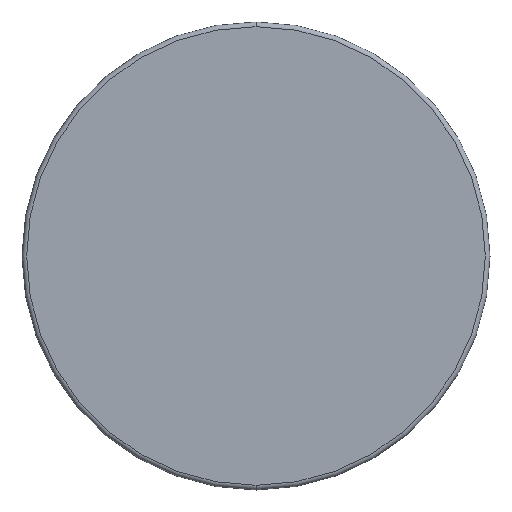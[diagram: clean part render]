
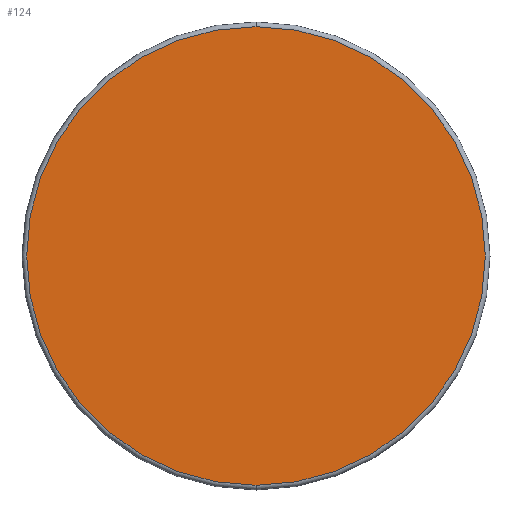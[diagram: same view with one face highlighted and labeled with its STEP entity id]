
A CAD part, front view. The second image highlights one B-rep face of the part: STEP entity #124.
In plain terms, the highlighted planar face has unit normal (0, -1, 0).
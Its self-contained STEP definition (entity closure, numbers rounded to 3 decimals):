
#23 = AXIS2_PLACEMENT_3D ( 'NONE', #998, #148, #602 ) ;
#77 = ORIENTED_EDGE ( 'NONE', *, *, #651, .T. ) ;
#123 = EDGE_LOOP ( 'NONE', ( #77, #955 ) ) ;
#124 = ADVANCED_FACE ( 'NONE', ( #421 ), #743, .F. ) ;
#145 = CIRCLE ( 'NONE', #727, 49. ) ;
#148 = DIRECTION ( 'NONE',  ( 0., 1., 0. ) ) ;
#171 = CARTESIAN_POINT ( 'NONE',  ( 0., 0., 0. ) ) ;
#211 = CARTESIAN_POINT ( 'NONE',  ( 0., 0., 49. ) ) ;
#253 = DIRECTION ( 'NONE',  ( 0., -1., 0. ) ) ;
#269 = VERTEX_POINT ( 'NONE', #888 ) ;
#278 = DIRECTION ( 'NONE',  ( 0., -1., 0. ) ) ;
#296 = CARTESIAN_POINT ( 'NONE',  ( 0., 0., 0. ) ) ;
#421 = FACE_OUTER_BOUND ( 'NONE', #123, .T. ) ;
#484 = DIRECTION ( 'NONE',  ( 0., 0., -1. ) ) ;
#595 = DIRECTION ( 'NONE',  ( 0., 0., -1. ) ) ;
#602 = DIRECTION ( 'NONE',  ( 0., 0., 1. ) ) ;
#603 = EDGE_CURVE ( 'NONE', #895, #269, #798, .T. ) ;
#651 = EDGE_CURVE ( 'NONE', #269, #895, #145, .T. ) ;
#727 = AXIS2_PLACEMENT_3D ( 'NONE', #171, #278, #595 ) ;
#743 = PLANE ( 'NONE',  #23 ) ;
#781 = AXIS2_PLACEMENT_3D ( 'NONE', #296, #253, #484 ) ;
#798 = CIRCLE ( 'NONE', #781, 49. ) ;
#888 = CARTESIAN_POINT ( 'NONE',  ( 0., 0., -49. ) ) ;
#895 = VERTEX_POINT ( 'NONE', #211 ) ;
#955 = ORIENTED_EDGE ( 'NONE', *, *, #603, .T. ) ;
#998 = CARTESIAN_POINT ( 'NONE',  ( 0., 0., 0. ) ) ;
